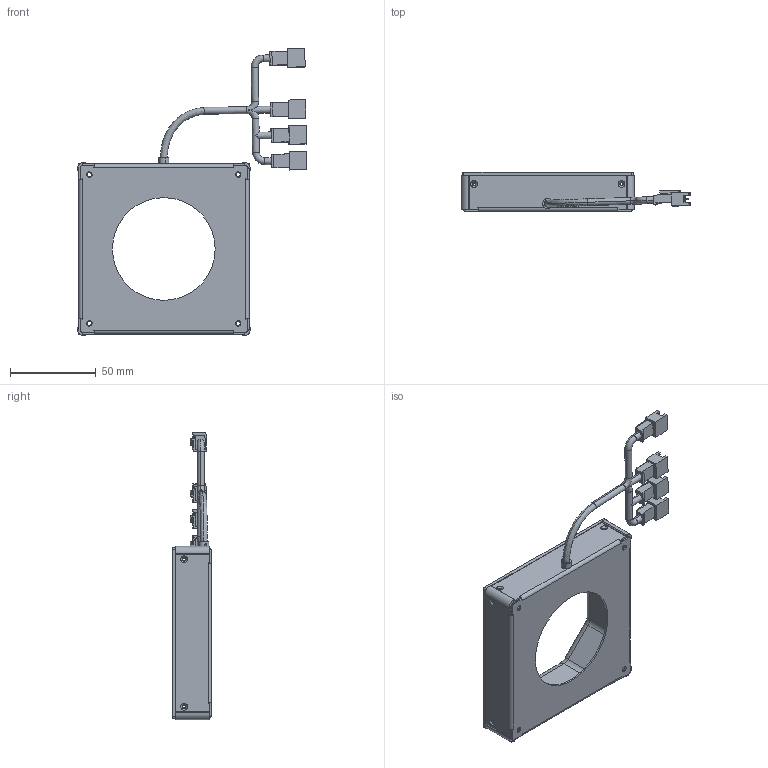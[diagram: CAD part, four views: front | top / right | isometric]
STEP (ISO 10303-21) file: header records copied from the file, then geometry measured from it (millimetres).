
FILE_DESCRIPTION (( 'STEP AP214' ), '1' );
FILE_NAME ('F-DLP-90-100-1-RGBW-24V ASSEMBLY.STEP', '2022-02-14T02:58:22', ( '' ), ( '' ), 'SwSTEP 2.0', 'SolidWorks 2021', '' );
FILE_SCHEMA (( 'AUTOMOTIVE_DESIGN' ));
Length unit declared in the file: millimetre
Products named in the file (11): CABLE 5 CORE; M5X0.5 CABLE CLAMP-SHORT; 24V CONNECTER; 5CORE_CONNECTOR; DLP.DLG PCB (round); NEW DIFFUSER DLC-OCTAGON-100 MODIFY; CLQ6A RGBW; F-DLG-00-100-X-X-24V-01-EX02 CASING; F-DLG.DLP-00-100-1-RGBW PCBA; DLQ STOPPER 1 REV02 STOPPER; F-DLP-90-100-1-RGBW-24V ASSEMBLY
Assembly tree (45 placements, depth 3):
  F-DLP-90-100-1-RGBW-24V ASSEMBLY
    F-DLG-00-100-X-X-24V-01-EX02 CASING
    DLQ STOPPER 1 REV02 STOPPER  x4
    M5X0.5 CABLE CLAMP-SHORT
    5CORE_CONNECTOR
      CABLE 5 CORE
      24V CONNECTER  x4
    NEW DIFFUSER DLC-OCTAGON-100 MODIFY
    F-DLG.DLP-00-100-1-RGBW PCBA
      DLP.DLG PCB (round)
      CLQ6A RGBW  x30
Bounding box: 134.14 x 22.8 x 167.78 mm (x, y, z)
Volume: 45778 mm3; surface area: 71073.4 mm2
Topology: 43 solids, 43 shells, 2899 faces, 7715 edges, 5054 vertices
Faces by surface type: plane 2457, cylinder 390, torus 24, cone 16, bspline 12
Entity records: 16726 total; most frequent: CARTESIAN_POINT 3791, DIRECTION 2488, ORIENTED_EDGE 2486, EDGE_CURVE 1243, LINE 836, VECTOR 836, AXIS2_PLACEMENT_3D 826, VERTEX_POINT 786
